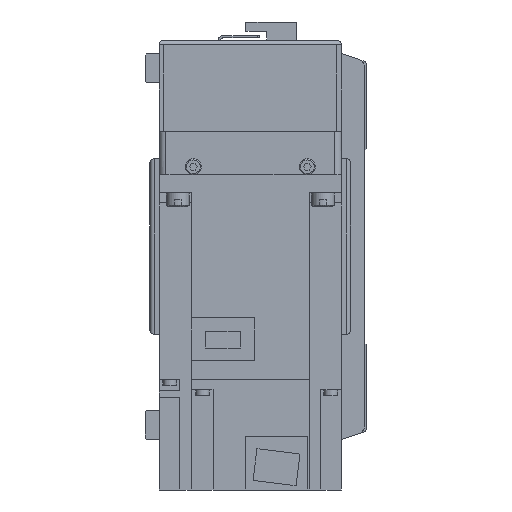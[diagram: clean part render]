
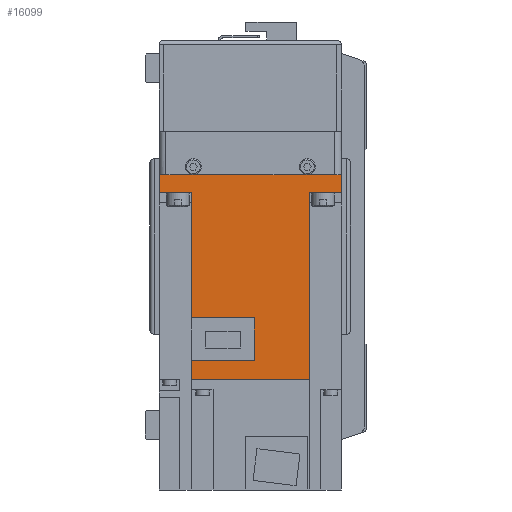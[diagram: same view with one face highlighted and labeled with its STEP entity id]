
A CAD part, left-side view. The second image highlights one B-rep face of the part: STEP entity #16099.
In plain terms, the highlighted planar face has unit normal (-1, 0, 0) as drawn and (1, 0, 0) by its records, which use the part's own axes.
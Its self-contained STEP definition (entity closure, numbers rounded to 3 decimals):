
#1747=ORIENTED_EDGE('',*,*,#6195,.F.);
#1748=ORIENTED_EDGE('',*,*,#6196,.F.);
#1749=ORIENTED_EDGE('',*,*,#6197,.F.);
#1750=ORIENTED_EDGE('',*,*,#6198,.T.);
#1751=ORIENTED_EDGE('',*,*,#6199,.F.);
#1752=ORIENTED_EDGE('',*,*,#6200,.T.);
#1753=ORIENTED_EDGE('',*,*,#6201,.T.);
#1754=ORIENTED_EDGE('',*,*,#6202,.F.);
#1755=ORIENTED_EDGE('',*,*,#6203,.F.);
#1756=ORIENTED_EDGE('',*,*,#6204,.F.);
#1757=ORIENTED_EDGE('',*,*,#6205,.F.);
#1758=ORIENTED_EDGE('',*,*,#6206,.F.);
#6195=EDGE_CURVE('',#8479,#8480,#10069,.T.);
#6196=EDGE_CURVE('',#8481,#8479,#10070,.T.);
#6197=EDGE_CURVE('',#8482,#8481,#10071,.T.);
#6198=EDGE_CURVE('',#8482,#8483,#10072,.T.);
#6199=EDGE_CURVE('',#8484,#8483,#10073,.T.);
#6200=EDGE_CURVE('',#8484,#8485,#10074,.T.);
#6201=EDGE_CURVE('',#8485,#8486,#10075,.T.);
#6202=EDGE_CURVE('',#8487,#8486,#10076,.T.);
#6203=EDGE_CURVE('',#8488,#8487,#10077,.T.);
#6204=EDGE_CURVE('',#8489,#8488,#10078,.T.);
#6205=EDGE_CURVE('',#8490,#8489,#10079,.T.);
#6206=EDGE_CURVE('',#8480,#8490,#10080,.T.);
#8479=VERTEX_POINT('',#24252);
#8480=VERTEX_POINT('',#24253);
#8481=VERTEX_POINT('',#24255);
#8482=VERTEX_POINT('',#24257);
#8483=VERTEX_POINT('',#24259);
#8484=VERTEX_POINT('',#24261);
#8485=VERTEX_POINT('',#24263);
#8486=VERTEX_POINT('',#24265);
#8487=VERTEX_POINT('',#24267);
#8488=VERTEX_POINT('',#24269);
#8489=VERTEX_POINT('',#24271);
#8490=VERTEX_POINT('',#24273);
#10069=LINE('',#24251,#11645);
#10070=LINE('',#24254,#11646);
#10071=LINE('',#24256,#11647);
#10072=LINE('',#24258,#11648);
#10073=LINE('',#24260,#11649);
#10074=LINE('',#24262,#11650);
#10075=LINE('',#24264,#11651);
#10076=LINE('',#24266,#11652);
#10077=LINE('',#24268,#11653);
#10078=LINE('',#24270,#11654);
#10079=LINE('',#24272,#11655);
#10080=LINE('',#24274,#11656);
#11645=VECTOR('',#19329,1000.);
#11646=VECTOR('',#19330,1000.);
#11647=VECTOR('',#19331,1000.);
#11648=VECTOR('',#19332,1000.);
#11649=VECTOR('',#19333,1000.);
#11650=VECTOR('',#19334,1000.);
#11651=VECTOR('',#19335,1000.);
#11652=VECTOR('',#19336,1000.);
#11653=VECTOR('',#19337,1000.);
#11654=VECTOR('',#19338,1000.);
#11655=VECTOR('',#19339,1000.);
#11656=VECTOR('',#19340,1000.);
#13213=EDGE_LOOP('',(#1747,#1748,#1749,#1750,#1751,#1752,#1753,#1754,#1755,
#1756,#1757,#1758));
#14375=FACE_BOUND('',#13213,.T.);
#15430=PLANE('',#17217);
#16099=ADVANCED_FACE('',(#14375),#15430,.F.);
#17217=AXIS2_PLACEMENT_3D('',#24250,#19327,#19328);
#19327=DIRECTION('',(-1.,0.,0.));
#19328=DIRECTION('',(0.,0.,1.));
#19329=DIRECTION('',(0.,0.,1.));
#19330=DIRECTION('',(0.,-1.,0.));
#19331=DIRECTION('',(0.,0.,-1.));
#19332=DIRECTION('',(0.,-1.,0.));
#19333=DIRECTION('',(0.,0.,-1.));
#19334=DIRECTION('',(0.,-1.,0.));
#19335=DIRECTION('',(0.,0.,-1.));
#19336=DIRECTION('',(0.,-1.,0.));
#19337=DIRECTION('',(0.,0.,-1.));
#19338=DIRECTION('',(0.,-1.,0.));
#19339=DIRECTION('',(0.,0.,-1.));
#19340=DIRECTION('',(0.,-1.,0.));
#24250=CARTESIAN_POINT('',(40.,89.8,40.));
#24251=CARTESIAN_POINT('',(40.,81.4,-26.));
#24252=CARTESIAN_POINT('',(40.,81.4,-25.95));
#24253=CARTESIAN_POINT('',(40.,81.4,1.8));
#24254=CARTESIAN_POINT('',(40.,158.,-25.95));
#24255=CARTESIAN_POINT('',(40.,89.8,-25.95));
#24256=CARTESIAN_POINT('',(40.,89.8,40.));
#24257=CARTESIAN_POINT('',(40.,89.8,25.95));
#24258=CARTESIAN_POINT('',(40.,158.,25.95));
#24259=CARTESIAN_POINT('',(40.,8.,25.95));
#24260=CARTESIAN_POINT('',(40.,8.,40.));
#24261=CARTESIAN_POINT('',(40.,8.,40.));
#24262=CARTESIAN_POINT('',(40.,89.8,40.));
#24263=CARTESIAN_POINT('',(40.,0.,40.));
#24264=CARTESIAN_POINT('',(40.,0.,40.));
#24265=CARTESIAN_POINT('',(40.,0.,-40.));
#24266=CARTESIAN_POINT('',(40.,89.8,-40.));
#24267=CARTESIAN_POINT('',(40.,8.,-40.));
#24268=CARTESIAN_POINT('',(40.,8.,40.));
#24269=CARTESIAN_POINT('',(40.,8.,-25.95));
#24270=CARTESIAN_POINT('',(40.,158.,-25.95));
#24271=CARTESIAN_POINT('',(40.,62.8,-25.95));
#24272=CARTESIAN_POINT('',(40.,62.8,1.8));
#24273=CARTESIAN_POINT('',(40.,62.8,1.8));
#24274=CARTESIAN_POINT('',(40.,81.4,1.8));
